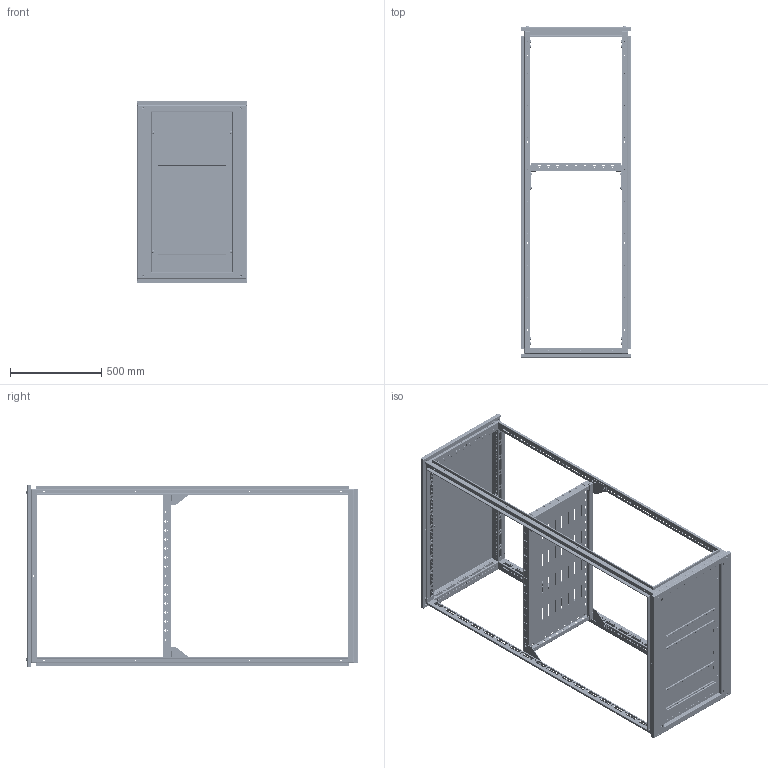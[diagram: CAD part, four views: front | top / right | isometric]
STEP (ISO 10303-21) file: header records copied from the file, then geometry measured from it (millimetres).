
FILE_DESCRIPTION (( 'STEP AP203' ), '1' );
FILE_NAME ('Instruction R5RFE.STEP', '2022-06-29T08:45:50', ( '' ), ( '' ), 'SwSTEP 2.0', 'SolidWorks 2020', '' );
FILE_SCHEMA (( 'CONFIG_CONTROL_DESIGN' ));
Length unit declared in the file: millimetre
Products named in the file (35): A3200006; M6 A3400002 Zinc_thread; AC00C244; QB01C026; Ì6 D87181 Zinc_In a tightened position (1.5 mm); QB03C082_Piegato; A0200018; QB04T030; A0300026; RB.2364.00.00.0_05; QB04C012; M6x16 DIN 6921 cl.8,8 Zinc_thread; QB01C041; AC00C469S-OLD; QB04C014; AC00C061_AC00C061; QB04C042; GUARNIZIONE  TETTI_600x1000; R5RFE..._R5RFE610; Instruction R5RFE; Ac00c561; QB01C031; QB04C009; RB.1704.00.00.0_- 01; A3300002; RB.1704.00.00.0_-00; QB04C010; CTE610; AC00C476; AC00C469D-OLD; A5100043; QB03T082; QB01T048; A0500003; CBA610
Assembly tree (116 placements, depth 4):
  Instruction R5RFE
    CTE610
      QB03T082
        QB03C082_Piegato
        A5100043  x2
        AC00C061_AC00C061  x2
        GUARNIZIONE  TETTI_600x1000
      QB01T048
        AC00C469D-OLD  x2
        QB01C031  x2
        AC00C469S-OLD  x2
        QB01C041  x2
      A0500003  x4
      A0300026  x2
      A3200006  x2
    CBA610
      QB04T030
        QB04C042  x2
        QB04C014  x2
        GUARNIZIONE  TETTI_600x1000
      QB01T048
        AC00C469D-OLD  x2
        QB01C031  x2
        AC00C469S-OLD  x2
        QB01C041  x2
      AC00C244  x2
      A0200018  x6
      A3300002  x6
      QB04C012  x2
      QB04C009  x2
      QB04C010
      Ac00c561  x14
    QB01C026  x4
    AC00C476  x16
    R5RFE..._R5RFE610
      RB.2364.00.00.0_05
      RB.1704.00.00.0_- 01  x2
      M6 A3400002 Zinc_thread  x8
      M6x16 DIN 6921 cl.8,8 Zinc_thread  x12
      RB.1704.00.00.0_-00  x2
      Ì6 D87181 Zinc_In a tightened position (1.5 mm)  x4
Bounding box: 600.5 x 1814.6 x 999 mm (x, y, z)
Volume: 7887805.8 mm3; surface area: 9409930.6 mm2
Topology: 121 solids, 121 shells, 21094 faces, 58596 edges, 37798 vertices
Faces by surface type: plane 10560, cylinder 7178, cone 2108, torus 640, bspline 528, sphere 80
Entity records: 225503 total; most frequent: CARTESIAN_POINT 44898, ORIENTED_EDGE 36684, DIRECTION 36550, EDGE_CURVE 18342, AXIS2_PLACEMENT_3D 12449, VERTEX_POINT 11943, VECTOR 11652, LINE 11652
